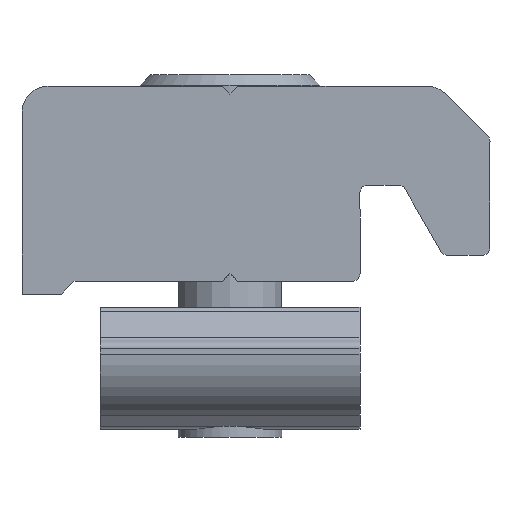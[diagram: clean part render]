
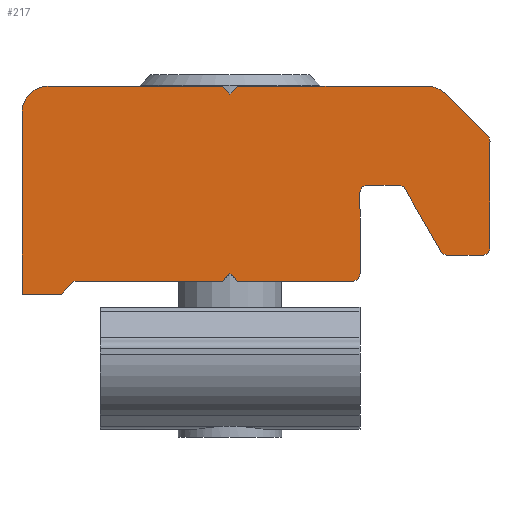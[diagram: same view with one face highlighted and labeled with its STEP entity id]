
A CAD part, front view. The second image highlights one B-rep face of the part: STEP entity #217.
In plain terms, the highlighted planar face has unit normal (0, -1, 0) as drawn and (0, 0, 1) by its records, which use the part's own axes.
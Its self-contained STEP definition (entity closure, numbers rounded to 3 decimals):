
#217=ADVANCED_FACE('',(#434),#435,.T.);
#434=FACE_OUTER_BOUND('',#680,.T.);
#435=PLANE('',#681);
#680=EDGE_LOOP('',(#1056,#1057,#1058,#1059,#1060,#1061,#1062,#1063,#1064,#1065,#1066,#1067,#1068,#1069,#1070,#1071,#1072,#1073,#1074,#1075,#1076,#1077,#1078,#1079,#1080,#1081));
#681=AXIS2_PLACEMENT_3D('',#1082,#1083,#1084);
#1056=ORIENTED_EDGE('',*,*,#1658,.T.);
#1057=ORIENTED_EDGE('',*,*,#1659,.T.);
#1058=ORIENTED_EDGE('',*,*,#1660,.T.);
#1059=ORIENTED_EDGE('',*,*,#1545,.T.);
#1060=ORIENTED_EDGE('',*,*,#1661,.T.);
#1061=ORIENTED_EDGE('',*,*,#1662,.T.);
#1062=ORIENTED_EDGE('',*,*,#1598,.T.);
#1063=ORIENTED_EDGE('',*,*,#1575,.T.);
#1064=ORIENTED_EDGE('',*,*,#1663,.T.);
#1065=ORIENTED_EDGE('',*,*,#1628,.T.);
#1066=ORIENTED_EDGE('',*,*,#1664,.T.);
#1067=ORIENTED_EDGE('',*,*,#1530,.T.);
#1068=ORIENTED_EDGE('',*,*,#1665,.T.);
#1069=ORIENTED_EDGE('',*,*,#1666,.T.);
#1070=ORIENTED_EDGE('',*,*,#1619,.T.);
#1071=ORIENTED_EDGE('',*,*,#1667,.T.);
#1072=ORIENTED_EDGE('',*,*,#1588,.T.);
#1073=ORIENTED_EDGE('',*,*,#1668,.T.);
#1074=ORIENTED_EDGE('',*,*,#1669,.T.);
#1075=ORIENTED_EDGE('',*,*,#1670,.T.);
#1076=ORIENTED_EDGE('',*,*,#1583,.T.);
#1077=ORIENTED_EDGE('',*,*,#1671,.T.);
#1078=ORIENTED_EDGE('',*,*,#1672,.T.);
#1079=ORIENTED_EDGE('',*,*,#1673,.T.);
#1080=ORIENTED_EDGE('',*,*,#1536,.T.);
#1081=ORIENTED_EDGE('',*,*,#1674,.T.);
#1082=CARTESIAN_POINT('',(1.,7.0,19.0));
#1083=DIRECTION('',(0.0,0.0,1.0));
#1084=DIRECTION('',(1.0,0.0,0.0));
#1530=EDGE_CURVE('',#1801,#1799,#1802,.T.);
#1536=EDGE_CURVE('',#1805,#1810,#1812,.T.);
#1545=EDGE_CURVE('',#1828,#1826,#1829,.T.);
#1575=EDGE_CURVE('',#1872,#1881,#1883,.T.);
#1583=EDGE_CURVE('',#1896,#1894,#1897,.T.);
#1588=EDGE_CURVE('',#1905,#1903,#1906,.T.);
#1598=EDGE_CURVE('',#1918,#1872,#1922,.T.);
#1619=EDGE_CURVE('',#1958,#1956,#1959,.T.);
#1628=EDGE_CURVE('',#1973,#1971,#1974,.T.);
#1658=EDGE_CURVE('',#2020,#2021,#2022,.T.);
#1659=EDGE_CURVE('',#2021,#2023,#2024,.T.);
#1660=EDGE_CURVE('',#2023,#1828,#2025,.T.);
#1661=EDGE_CURVE('',#1826,#2026,#2027,.T.);
#1662=EDGE_CURVE('',#2026,#1918,#2028,.T.);
#1663=EDGE_CURVE('',#1881,#1973,#2029,.T.);
#1664=EDGE_CURVE('',#1971,#1801,#2030,.T.);
#1665=EDGE_CURVE('',#1799,#2031,#2032,.T.);
#1666=EDGE_CURVE('',#2031,#1958,#2033,.T.);
#1667=EDGE_CURVE('',#1956,#1905,#2034,.T.);
#1668=EDGE_CURVE('',#1903,#2035,#2036,.T.);
#1669=EDGE_CURVE('',#2035,#2037,#2038,.T.);
#1670=EDGE_CURVE('',#2037,#1896,#2039,.T.);
#1671=EDGE_CURVE('',#1894,#2040,#2041,.T.);
#1672=EDGE_CURVE('',#2040,#2042,#2043,.T.);
#1673=EDGE_CURVE('',#2042,#1805,#2044,.T.);
#1674=EDGE_CURVE('',#1810,#2020,#2045,.T.);
#1799=VERTEX_POINT('',#2199);
#1801=VERTEX_POINT('',#2202);
#1802=CIRCLE('',#2203,0.3);
#1805=VERTEX_POINT('',#2207);
#1810=VERTEX_POINT('',#2213);
#1812=LINE('',#2216,#2217);
#1826=VERTEX_POINT('',#2239);
#1828=VERTEX_POINT('',#2242);
#1829=LINE('',#2243,#2244);
#1872=VERTEX_POINT('',#2303);
#1881=VERTEX_POINT('',#2315);
#1883=LINE('',#2318,#2319);
#1894=VERTEX_POINT('',#2332);
#1896=VERTEX_POINT('',#2335);
#1897=LINE('',#2336,#2337);
#1903=VERTEX_POINT('',#2345);
#1905=VERTEX_POINT('',#2348);
#1906=LINE('',#2349,#2350);
#1918=VERTEX_POINT('',#2365);
#1922=LINE('',#2370,#2371);
#1956=VERTEX_POINT('',#2413);
#1958=VERTEX_POINT('',#2416);
#1959=LINE('',#2417,#2418);
#1971=VERTEX_POINT('',#2434);
#1973=VERTEX_POINT('',#2437);
#1974=CIRCLE('',#2438,0.3);
#2020=VERTEX_POINT('',#2501);
#2021=VERTEX_POINT('',#2502);
#2022=CIRCLE('',#2503,1.0);
#2023=VERTEX_POINT('',#2504);
#2024=LINE('',#2505,#2506);
#2025=LINE('',#2507,#2508);
#2026=VERTEX_POINT('',#2509);
#2027=LINE('',#2510,#2511);
#2028=LINE('',#2512,#2513);
#2029=LINE('',#2514,#2515);
#2030=LINE('',#2516,#2517);
#2031=VERTEX_POINT('',#2518);
#2032=LINE('',#2519,#2520);
#2033=CIRCLE('',#2521,0.3);
#2034=CIRCLE('',#2522,0.3);
#2035=VERTEX_POINT('',#2523);
#2036=CIRCLE('',#2524,0.3);
#2037=VERTEX_POINT('',#2525);
#2038=LINE('',#2526,#2527);
#2039=CIRCLE('',#2528,0.3);
#2040=VERTEX_POINT('',#2529);
#2041=CIRCLE('',#2530,1.);
#2042=VERTEX_POINT('',#2531);
#2043=LINE('',#2532,#2533);
#2044=LINE('',#2534,#2535);
#2045=LINE('',#2536,#2537);
#2199=CARTESIAN_POINT('',(13.3,4.2,19.0));
#2202=CARTESIAN_POINT('',(13.,3.9,19.0));
#2203=AXIS2_PLACEMENT_3D('',#2749,#2750,#2751);
#2207=CARTESIAN_POINT('',(8.0,7.7,19.0));
#2213=CARTESIAN_POINT('',(7.7,8.0,19.0));
#2216=CARTESIAN_POINT('',(8.0,7.7,19.0));
#2217=VECTOR('',#2758,1.0);
#2239=CARTESIAN_POINT('',(2.0,0.5,19.0));
#2242=CARTESIAN_POINT('',(1.5,0.0,19.0));
#2243=CARTESIAN_POINT('',(1.5,0.0,19.0));
#2244=VECTOR('',#2766,1.0);
#2303=CARTESIAN_POINT('',(8.3,0.5,19.0));
#2315=CARTESIAN_POINT('',(12.7,0.5,19.0));
#2318=CARTESIAN_POINT('',(8.3,0.5,19.0));
#2319=VECTOR('',#2799,1.0);
#2332=CARTESIAN_POINT('',(16.293,7.707,19.0));
#2335=CARTESIAN_POINT('',(17.912,6.088,19.0));
#2336=CARTESIAN_POINT('',(17.912,6.088,19.0));
#2337=VECTOR('',#2809,1.0);
#2345=CARTESIAN_POINT('',(17.7,1.5,19.0));
#2348=CARTESIAN_POINT('',(16.373,1.5,19.0));
#2349=CARTESIAN_POINT('',(16.373,1.5,19.0));
#2350=VECTOR('',#2813,1.0);
#2365=CARTESIAN_POINT('',(8.0,0.8,19.0));
#2370=CARTESIAN_POINT('',(8.0,0.8,19.0));
#2371=VECTOR('',#2827,1.0);
#2413=CARTESIAN_POINT('',(16.113,1.65,19.0));
#2416=CARTESIAN_POINT('',(14.728,4.05,19.0));
#2417=CARTESIAN_POINT('',(14.728,4.05,19.0));
#2418=VECTOR('',#2858,1.0);
#2434=CARTESIAN_POINT('',(13.,0.8,19.0));
#2437=CARTESIAN_POINT('',(12.702,0.5,19.0));
#2438=AXIS2_PLACEMENT_3D('',#2867,#2868,#2869);
#2501=CARTESIAN_POINT('',(1.,8.0,19.0));
#2502=CARTESIAN_POINT('',(0.0,7.0,19.0));
#2503=AXIS2_PLACEMENT_3D('',#2911,#2912,#2913);
#2504=CARTESIAN_POINT('',(0.0,0.0,19.0));
#2505=CARTESIAN_POINT('',(0.0,7.0,19.0));
#2506=VECTOR('',#2914,1.0);
#2507=CARTESIAN_POINT('',(0.0,0.0,19.0));
#2508=VECTOR('',#2915,1.0);
#2509=CARTESIAN_POINT('',(7.7,0.5,19.0));
#2510=CARTESIAN_POINT('',(2.0,0.5,19.0));
#2511=VECTOR('',#2916,1.0);
#2512=CARTESIAN_POINT('',(7.7,0.5,19.0));
#2513=VECTOR('',#2917,1.0);
#2514=CARTESIAN_POINT('',(12.7,0.5,19.0));
#2515=VECTOR('',#2918,1.0);
#2516=CARTESIAN_POINT('',(13.,0.8,19.0));
#2517=VECTOR('',#2919,1.0);
#2518=CARTESIAN_POINT('',(14.468,4.2,19.0));
#2519=CARTESIAN_POINT('',(13.3,4.2,19.0));
#2520=VECTOR('',#2920,1.0);
#2521=AXIS2_PLACEMENT_3D('',#2921,#2922,#2923);
#2522=AXIS2_PLACEMENT_3D('',#2924,#2925,#2926);
#2523=CARTESIAN_POINT('',(18.0,1.8,19.0));
#2524=AXIS2_PLACEMENT_3D('',#2927,#2928,#2929);
#2525=CARTESIAN_POINT('',(18.,5.876,19.0));
#2526=CARTESIAN_POINT('',(18.0,1.8,19.0));
#2527=VECTOR('',#2930,1.0);
#2528=AXIS2_PLACEMENT_3D('',#2931,#2932,#2933);
#2529=CARTESIAN_POINT('',(15.586,8.0,19.0));
#2530=AXIS2_PLACEMENT_3D('',#2934,#2935,#2936);
#2531=CARTESIAN_POINT('',(8.3,8.0,19.0));
#2532=CARTESIAN_POINT('',(15.586,8.0,19.0));
#2533=VECTOR('',#2937,1.0);
#2534=CARTESIAN_POINT('',(8.3,8.0,19.0));
#2535=VECTOR('',#2938,1.0);
#2536=CARTESIAN_POINT('',(7.7,8.0,19.0));
#2537=VECTOR('',#2939,1.0);
#2749=CARTESIAN_POINT('',(13.3,3.9,19.0));
#2750=DIRECTION('',(0.0,0.0,-1.0));
#2751=DIRECTION('',(-1.0,0.0,0.0));
#2758=DIRECTION('',(-0.707,0.707,0.0));
#2766=DIRECTION('',(0.707,0.707,0.0));
#2799=DIRECTION('',(1.0,0.,0.0));
#2809=DIRECTION('',(-0.707,0.707,0.0));
#2813=DIRECTION('',(1.0,0.,0.0));
#2827=DIRECTION('',(0.707,-0.707,0.0));
#2858=DIRECTION('',(0.5,-0.866,0.0));
#2867=CARTESIAN_POINT('',(12.7,0.8,19.0));
#2868=DIRECTION('',(0.0,0.0,1.0));
#2869=DIRECTION('',(1.0,0.0,0.0));
#2911=CARTESIAN_POINT('',(1.,7.0,19.0));
#2912=DIRECTION('',(0.0,0.0,1.0));
#2913=DIRECTION('',(1.0,0.0,0.0));
#2914=DIRECTION('',(0.0,-1.0,0.0));
#2915=DIRECTION('',(1.0,0.0,0.0));
#2916=DIRECTION('',(1.0,0.0,0.0));
#2917=DIRECTION('',(0.707,0.707,0.0));
#2918=DIRECTION('',(1.,0.004,0.0));
#2919=DIRECTION('',(0.,1.0,0.0));
#2920=DIRECTION('',(1.0,0.,0.0));
#2921=CARTESIAN_POINT('',(14.468,3.9,19.0));
#2922=DIRECTION('',(0.0,0.0,-1.0));
#2923=DIRECTION('',(-1.0,0.0,0.0));
#2924=CARTESIAN_POINT('',(16.373,1.8,19.0));
#2925=DIRECTION('',(0.0,0.0,1.0));
#2926=DIRECTION('',(1.0,0.0,0.0));
#2927=CARTESIAN_POINT('',(17.7,1.8,19.0));
#2928=DIRECTION('',(0.0,0.0,1.0));
#2929=DIRECTION('',(1.0,0.0,0.0));
#2930=DIRECTION('',(0.,1.0,0.0));
#2931=CARTESIAN_POINT('',(17.7,5.876,19.0));
#2932=DIRECTION('',(0.0,0.0,1.0));
#2933=DIRECTION('',(1.0,0.0,0.0));
#2934=CARTESIAN_POINT('',(15.586,7.0,19.0));
#2935=DIRECTION('',(0.0,0.0,1.0));
#2936=DIRECTION('',(1.0,0.0,0.0));
#2937=DIRECTION('',(-1.0,0.0,0.0));
#2938=DIRECTION('',(-0.707,-0.707,0.0));
#2939=DIRECTION('',(-1.0,0.0,0.0));
